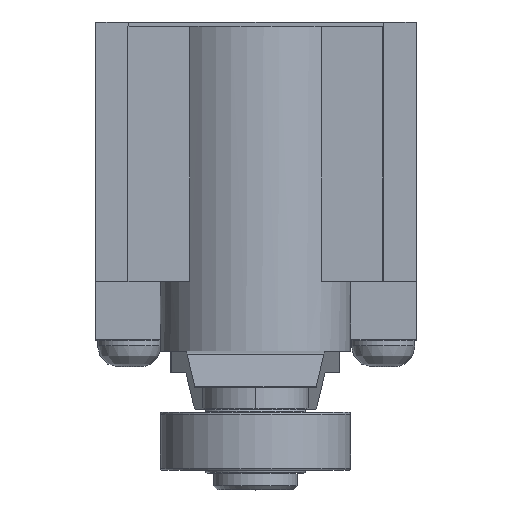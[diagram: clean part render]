
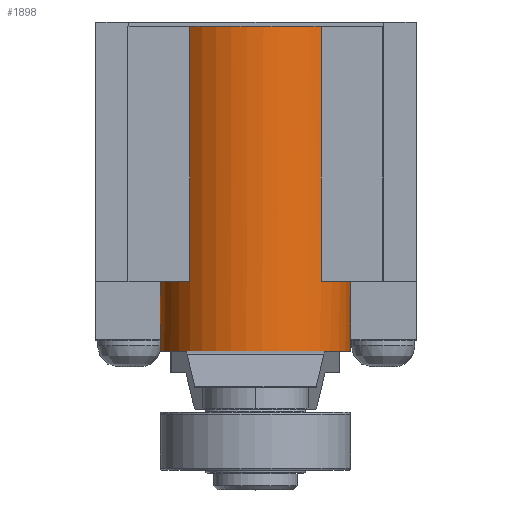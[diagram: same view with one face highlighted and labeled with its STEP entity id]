
A CAD part, top view. The second image highlights one B-rep face of the part: STEP entity #1898.
In plain terms, the highlighted cylindrical face has radius 9 mm (diameter 18 mm), a full revolution.
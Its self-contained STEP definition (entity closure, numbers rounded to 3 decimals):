
#1687=CARTESIAN_POINT('',(4.975,-9.5,63.));
#1688=VERTEX_POINT('',#1687);
#1689=CARTESIAN_POINT('',(-4.975,-9.5,63.));
#1690=VERTEX_POINT('',#1689);
#1691=CARTESIAN_POINT('',(0.,-9.5,70.5));
#1692=DIRECTION('',(0.0,1.0,0.0));
#1693=DIRECTION('',(-1.0,0.0,0.0));
#1694=AXIS2_PLACEMENT_3D('',#1691,#1692,#1693);
#1695=CIRCLE('',#1694,9.0);
#1696=EDGE_CURVE('',#1688,#1690,#1695,.T.);
#1720=CARTESIAN_POINT('',(-6.225,-9.5,77.0));
#1721=VERTEX_POINT('',#1720);
#1722=CARTESIAN_POINT('',(0.,-9.5,70.5));
#1723=DIRECTION('',(0.0,1.0,0.0));
#1724=DIRECTION('',(-1.0,0.0,0.0));
#1725=AXIS2_PLACEMENT_3D('',#1722,#1723,#1724);
#1726=CIRCLE('',#1725,9.0);
#1727=EDGE_CURVE('',#1690,#1721,#1726,.T.);
#1767=CARTESIAN_POINT('',(6.225,-9.5,77.0));
#1768=VERTEX_POINT('',#1767);
#1775=CARTESIAN_POINT('',(0.,-9.5,70.5));
#1776=DIRECTION('',(0.0,1.0,0.0));
#1777=DIRECTION('',(-1.0,0.0,0.0));
#1778=AXIS2_PLACEMENT_3D('',#1775,#1776,#1777);
#1779=CIRCLE('',#1778,9.0);
#1780=EDGE_CURVE('',#1768,#1688,#1779,.T.);
#1837=CARTESIAN_POINT('',(-6.225,14.6,77.));
#1838=VERTEX_POINT('',#1837);
#1845=CARTESIAN_POINT('',(6.225,14.6,77.));
#1846=VERTEX_POINT('',#1845);
#1847=CARTESIAN_POINT('',(0.,14.6,70.5));
#1848=DIRECTION('',(0.0,-1.0,0.0));
#1849=DIRECTION('',(-1.0,0.0,0.0));
#1850=AXIS2_PLACEMENT_3D('',#1847,#1848,#1849);
#1851=CIRCLE('',#1850,9.0);
#1852=EDGE_CURVE('',#1846,#1838,#1851,.T.);
#1864=CARTESIAN_POINT('',(0.,-9.5,70.5));
#1865=DIRECTION('',(0.0,-1.0,0.0));
#1866=DIRECTION('',(-1.0,0.0,0.0));
#1867=AXIS2_PLACEMENT_3D('',#1864,#1865,#1866);
#1868=CYLINDRICAL_SURFACE('',#1867,9.0);
#1869=CARTESIAN_POINT('',(6.225,14.6,77.));
#1870=DIRECTION('',(0.0,-1.0,0.0));
#1871=VECTOR('',#1870,24.1);
#1872=LINE('',#1869,#1871);
#1873=EDGE_CURVE('',#1846,#1768,#1872,.T.);
#1874=ORIENTED_EDGE('',*,*,#1873,.F.);
#1875=ORIENTED_EDGE('',*,*,#1852,.T.);
#1876=CARTESIAN_POINT('',(-6.225,-9.5,77.));
#1877=DIRECTION('',(0.0,1.0,0.0));
#1878=VECTOR('',#1877,24.1);
#1879=LINE('',#1876,#1878);
#1880=EDGE_CURVE('',#1721,#1838,#1879,.T.);
#1881=ORIENTED_EDGE('',*,*,#1880,.F.);
#1882=ORIENTED_EDGE('',*,*,#1727,.F.);
#1883=ORIENTED_EDGE('',*,*,#1696,.F.);
#1884=ORIENTED_EDGE('',*,*,#1780,.F.);
#1885=EDGE_LOOP('',(#1874,#1875,#1881,#1882,#1883,#1884));
#1886=FACE_OUTER_BOUND('',#1885,.T.);
#1887=CARTESIAN_POINT('',(9.,-16.1,70.5));
#1888=VERTEX_POINT('',#1887);
#1889=CARTESIAN_POINT('',(0.,-16.1,70.5));
#1890=DIRECTION('',(0.0,1.0,0.0));
#1891=DIRECTION('',(-1.0,0.0,0.0));
#1892=AXIS2_PLACEMENT_3D('',#1889,#1890,#1891);
#1893=CIRCLE('',#1892,9.0);
#1894=EDGE_CURVE('',#1888,#1888,#1893,.T.);
#1895=ORIENTED_EDGE('',*,*,#1894,.T.);
#1896=EDGE_LOOP('',(#1895));
#1897=FACE_BOUND('',#1896,.T.);
#1898=ADVANCED_FACE('',(#1886,#1897),#1868,.T.);
